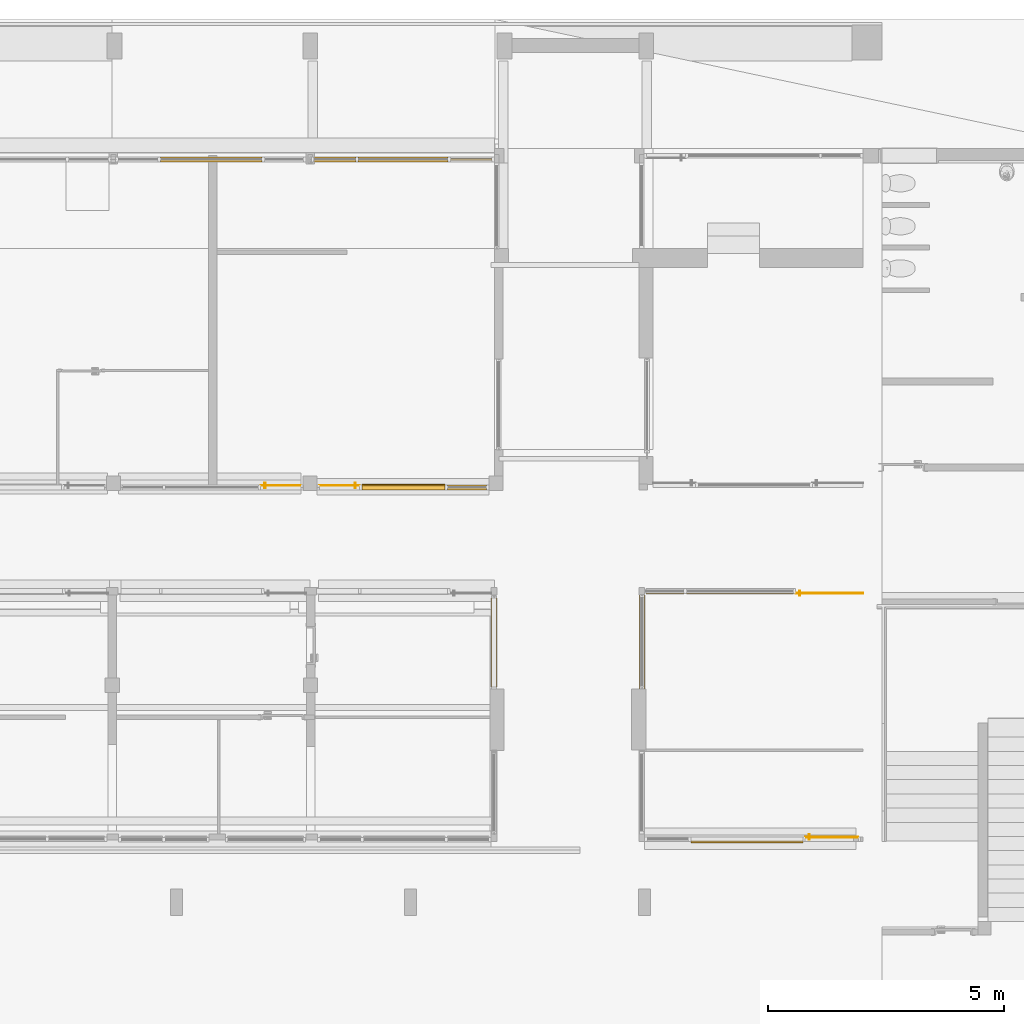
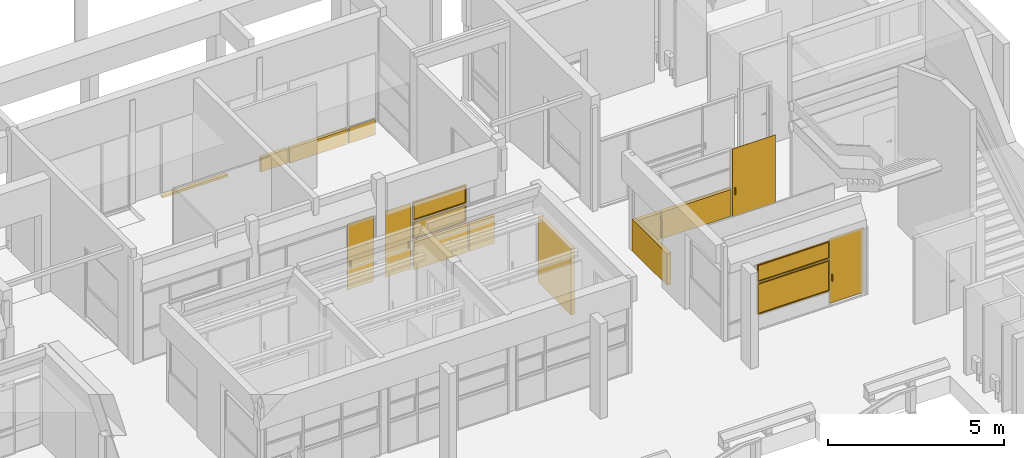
# One storey, part 108 of 117: 10 curtain walls, 4 doors, 4 windows, 8 elements without a shape of their own.
"""IFC4 building model written with IfcOpenShell, lengths in metres."""

from ifc_helpers import new_model, entity, si_unit, converted_unit, derived_unit, direction, frame, origin, place, context, subcontext, project, spatial, indexed_curve, outline, extrude, source, transform, mapped, material, constituent, constituent_set, type_object, type_shapes, element, aggregate, save


model = new_model("IFC4")

# Units and contexts
model_context = context("Model", 3, precision=1e-05, world=origin(), true_north=direction((6.123031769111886e-17, 1.0)))
body_context = subcontext(model_context, "Body", "Model", "MODEL_VIEW")
ifc_project = project(units=[si_unit("LENGTHUNIT", "METRE"), si_unit("AREAUNIT", "SQUARE_METRE"), si_unit("VOLUMEUNIT", "CUBIC_METRE"), converted_unit("PLANEANGLEUNIT", "DEGREE", entity("IfcRatioMeasure", 0.017453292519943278), si_unit("PLANEANGLEUNIT", "RADIAN"), dimensions=[0, 0, 0, 0, 0, 0, 0]), si_unit("MASSUNIT", "GRAM", prefix="KILO"), derived_unit("MASSDENSITYUNIT", [(si_unit("MASSUNIT", "GRAM", prefix="KILO"), 1), (si_unit("LENGTHUNIT", "METRE"), -3)]), derived_unit("MOMENTOFINERTIAUNIT", [(si_unit("LENGTHUNIT", "METRE"), 4)]), si_unit("TIMEUNIT", "SECOND"), si_unit("FREQUENCYUNIT", "HERTZ"), si_unit("THERMODYNAMICTEMPERATUREUNIT", "DEGREE_CELSIUS"), derived_unit("THERMALTRANSMITTANCEUNIT", [(si_unit("MASSUNIT", "GRAM", prefix="KILO"), 1), (si_unit("THERMODYNAMICTEMPERATUREUNIT", "KELVIN"), -1), (si_unit("TIMEUNIT", "SECOND"), -3)]), derived_unit("VOLUMETRICFLOWRATEUNIT", [(si_unit("LENGTHUNIT", "METRE"), 3), (si_unit("TIMEUNIT", "SECOND"), -1)]), derived_unit("MASSFLOWRATEUNIT", [(si_unit("MASSUNIT", "GRAM", prefix="KILO"), 1), (si_unit("TIMEUNIT", "SECOND"), -1)]), derived_unit("ROTATIONALFREQUENCYUNIT", [(si_unit("TIMEUNIT", "SECOND"), -1)]), si_unit("ELECTRICCURRENTUNIT", "AMPERE"), si_unit("ELECTRICVOLTAGEUNIT", "VOLT"), si_unit("POWERUNIT", "WATT"), si_unit("FORCEUNIT", "NEWTON", prefix="KILO"), si_unit("ILLUMINANCEUNIT", "LUX"), si_unit("LUMINOUSFLUXUNIT", "LUMEN"), si_unit("LUMINOUSINTENSITYUNIT", "CANDELA"), derived_unit("USERDEFINED", [(si_unit("MASSUNIT", "GRAM", prefix="KILO"), -1), (si_unit("LENGTHUNIT", "METRE"), -2), (si_unit("TIMEUNIT", "SECOND"), 3), (si_unit("LUMINOUSFLUXUNIT", "LUMEN"), 1)]), derived_unit("SOUNDPOWERUNIT", [(si_unit("MASSUNIT", "GRAM", prefix="KILO"), 1), (si_unit("LENGTHUNIT", "METRE"), 2), (si_unit("TIMEUNIT", "SECOND"), -3)]), derived_unit("SOUNDPRESSUREUNIT", [(si_unit("MASSUNIT", "GRAM", prefix="KILO"), 1), (si_unit("LENGTHUNIT", "METRE"), -1), (si_unit("TIMEUNIT", "SECOND"), -2)]), derived_unit("LINEARVELOCITYUNIT", [(si_unit("LENGTHUNIT", "METRE"), 1), (si_unit("TIMEUNIT", "SECOND"), -1)]), si_unit("PRESSUREUNIT", "PASCAL"), derived_unit("USERDEFINED", [(si_unit("LENGTHUNIT", "METRE"), -2), (si_unit("MASSUNIT", "GRAM", prefix="KILO"), 1), (si_unit("TIMEUNIT", "SECOND"), -2)]), derived_unit("LINEARFORCEUNIT", [(si_unit("MASSUNIT", "GRAM", prefix="KILO"), 1), (si_unit("LENGTHUNIT", "METRE"), 1), (si_unit("TIMEUNIT", "SECOND"), -2), (si_unit("LENGTHUNIT", "METRE"), -1)]), derived_unit("PLANARFORCEUNIT", [(si_unit("MASSUNIT", "GRAM", prefix="KILO"), 1), (si_unit("LENGTHUNIT", "METRE"), 1), (si_unit("TIMEUNIT", "SECOND"), -2), (si_unit("LENGTHUNIT", "METRE"), -2)])], contexts=[model_context])

# Site, building, storey
site_placement = place(None, origin())
site = spatial("IfcSite", under=ifc_project, at=site_placement, Name="Superficie", CompositionType="ELEMENT")
building_placement = place(site_placement, origin())
building = spatial("IfcBuilding", under=site, at=building_placement, CompositionType="ELEMENT")
storey_placement = place(building_placement, origin())
storey = spatial("IfcBuildingStorey", under=building, at=storey_placement, Name="Nivel 0", CompositionType="ELEMENT", Elevation=0.0)

# Curtain walls
curtain_wall_type_1 = type_object("IfcCurtainWallType", Name="Muro cortina:Muro cortina - simple", PredefinedType="NOTDEFINED")
curtain_wall_1_placement = place(storey_placement, origin())
curtain_wall_1 = element("IfcCurtainWall", 1, at=curtain_wall_1_placement, inside=storey, type_object=curtain_wall_type_1, Name="Muro cortina:Muro cortina - simple", ObjectType="Muro cortina:Muro cortina - simple", PredefinedType="NOTDEFINED")
ifc_material_1 = material(Name="<Unnamed>")
curtain_wall_type_2 = type_object("IfcCurtainWallType", Name="Muro básico:Por defecto - 12 cm 2", PredefinedType="NOTDEFINED")
curtain_wall_2_placement = place(storey_placement, frame((12.781799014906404, 3.3772960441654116, 0.04500000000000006), z_axis=(0.0, 0.0, 1.0), x_axis=(0.0, -1.0, 0.0)))
curtain_wall_2 = element("IfcCurtainWall", 2, at=curtain_wall_2_placement, type_object=curtain_wall_type_2, material=ifc_material_1, Name="Muro básico:Por defecto - 12 cm 2", ObjectType="Muro básico:Por defecto - 12 cm 2", PredefinedType="NOTDEFINED", context=body_context, shape_type="SweptSolid", body=[
    extrude(outline(indexed_curve([(1.8764667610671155, 0.05999999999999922), (-6.497094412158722e-17, 0.05999999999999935), (6.497094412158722e-17, -0.05999999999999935), (1.8764667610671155, -0.05999999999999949), (1.8764667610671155, 0.05999999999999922)], self_intersect=False)), origin(), (0.0, 0.0, 1.0), 2.3049999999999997),
])
aggregate(curtain_wall_1, [curtain_wall_2])

curtain_wall_3_placement = place(storey_placement, origin())
curtain_wall_3 = element("IfcCurtainWall", 3, at=curtain_wall_3_placement, inside=storey, type_object=curtain_wall_type_1, Name="Muro cortina:Muro cortina - simple", ObjectType="Muro cortina:Muro cortina - simple", PredefinedType="NOTDEFINED")
curtain_wall_4_placement = place(storey_placement, frame((15.916799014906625, 3.4457137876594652, 0.0), z_axis=(0.0, 0.0, 1.0), x_axis=(0.0, -1.0, 0.0)))
curtain_wall_4 = element("IfcCurtainWall", 4, at=curtain_wall_4_placement, type_object=curtain_wall_type_2, material=ifc_material_1, Name="Muro básico:Por defecto - 12 cm 2", ObjectType="Muro básico:Por defecto - 12 cm 2", PredefinedType="NOTDEFINED", context=body_context, shape_type="SweptSolid", body=[
    extrude(outline(indexed_curve([(1.9898845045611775, 0.05999999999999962), (-7.341472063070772e-17, 0.05999999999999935), (7.341472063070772e-17, -0.05999999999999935), (1.9898845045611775, -0.05999999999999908), (1.9898845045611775, 0.05999999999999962)], self_intersect=False)), origin(), (0.0, 0.0, 1.0), 1.1),
])
aggregate(curtain_wall_3, [curtain_wall_4])

# Curtain walls, door
curtain_wall_5_placement = place(storey_placement, origin())
curtain_wall_5 = element("IfcCurtainWall", 5, at=curtain_wall_5_placement, inside=storey, type_object=curtain_wall_type_1, Name="Muro cortina:Muro cortina - simple", ObjectType="Muro cortina:Muro cortina - simple", PredefinedType="NOTDEFINED")
curtain_wall_6_placement = place(storey_placement, frame((19.11100195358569, 3.525713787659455, 0.05), z_axis=(0.0, 0.0, 1.0), x_axis=(-1.0, 0.0, 0.0)))
curtain_wall_6 = element("IfcCurtainWall", 6, at=curtain_wall_6_placement, type_object=curtain_wall_type_2, material=ifc_material_1, Name="Muro básico:Por defecto - 12 cm 2", ObjectType="Muro básico:Por defecto - 12 cm 2", PredefinedType="NOTDEFINED", context=body_context, shape_type="SweptSolid", body=[
    extrude(outline(indexed_curve([(2.259999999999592, 0.06000000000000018), (-1.9420986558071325e-16, 0.059999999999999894), (1.9420986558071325e-16, -0.059999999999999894), (2.2599999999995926, -0.059999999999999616), (2.259999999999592, 0.06000000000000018)], self_intersect=False)), origin(), (0.0, 0.0, 1.0), 0.9249999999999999),
])
curtain_wall_7_placement = place(storey_placement, frame((16.801001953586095, 3.525713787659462, 0.05), z_axis=(0.0, 0.0, 1.0), x_axis=(-1.0, 0.0, 0.0)))
curtain_wall_7 = element("IfcCurtainWall", 7, at=curtain_wall_7_placement, type_object=curtain_wall_type_2, material=ifc_material_1, Name="Muro básico:Por defecto - 12 cm 2", ObjectType="Muro básico:Por defecto - 12 cm 2", PredefinedType="NOTDEFINED", context=body_context, shape_type="SweptSolid", body=[
    extrude(outline(indexed_curve([(0.8092029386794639, 0.05999999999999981), (-1.9420986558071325e-16, 0.059999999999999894), (1.9420986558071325e-16, -0.059999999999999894), (0.8092029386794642, -0.059999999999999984), (0.8092029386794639, 0.05999999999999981)], self_intersect=False)), origin(), (0.0, 0.0, 1.0), 0.9249999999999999),
])
ifc_material_2 = material(Name="Metal - Aluminio", Category="Metal")
ifc_constituent_1 = constituent(ifc_material_2, Name="Metal - Aluminio", Category="Metal")
ifc_material_3 = material(Name="Acero", Category="Metal")
ifc_constituent_2 = constituent(ifc_material_3, Name="Acero", Category="Metal")
ifc_constituent_set_1 = constituent_set(constituents=[ifc_constituent_1, ifc_constituent_2], Name="MaterialConstituentSet")
ifc_constituent_3 = constituent(ifc_material_2, Name="Marco/montante", Category="Metal")
ifc_constituent_4 = constituent(ifc_material_3, Name="Panel", Category="Metal")
ifc_constituent_set_2 = constituent_set(constituents=[ifc_constituent_3, ifc_constituent_4], Name="MaterialConstituentSet")
door_type_1 = type_object("IfcDoorType", Name="Puerta de cristal abatible en muro cortina:Puerta de chapa abatible en muro cortina 2", OperationType="NOTDEFINED", PredefinedType="DOOR", material=ifc_constituent_set_2)
shared_shape_1 = source(origin(), body_context, "Body", "SweptSolid", [
    extrude(outline(indexed_curve([(-0.012699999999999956, -0.0254), (0.012700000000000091, -0.0254), (0.012700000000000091, 0.0254), (-0.012699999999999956, 0.0254), (-0.012699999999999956, -0.0254)], self_intersect=False)), frame((0.6239985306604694, 0.012900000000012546, 0.7619999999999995)), (0.0, 0.0, 1.0), 0.22860000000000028),
    extrude(outline(indexed_curve([(-0.01269999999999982, -0.025399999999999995), (0.01269999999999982, -0.025399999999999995), (0.01269999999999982, 0.025400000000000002), (-0.01269999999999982, 0.025400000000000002), (-0.01269999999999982, -0.025399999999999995)], self_intersect=False)), frame((0.6239985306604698, 0.07640000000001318, 0.762), z_axis=(0.0, 0.0, 1.0), x_axis=(-1.0, 0.0, 0.0)), (0.0, 0.0, 1.0), 0.22860000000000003),
    extrude(outline(indexed_curve([(-0.006350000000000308, -0.7128985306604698), (0.006350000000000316, -0.7128985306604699), (0.006350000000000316, 0.7128985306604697), (-0.006350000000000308, 0.7128985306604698), (-0.006350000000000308, -0.7128985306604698)], self_intersect=False)), frame((0.0, 0.04465000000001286, 0.0), z_axis=(0.0, 0.0, 1.0), x_axis=(0.0, -1.0, 0.0)), (0.0, 0.0, 1.0), 2.35),
])
type_shapes(door_type_1, [shared_shape_1])
door_1_placement = place(curtain_wall_5_placement, frame((19.87390048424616, 3.5257137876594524, 0.0), z_axis=(0.0, 0.0, 1.0), x_axis=(-1.0, 0.0, 0.0)))
door_1 = element("IfcDoor", 8, at=door_1_placement, type_object=door_type_1, material=ifc_constituent_set_1, Name="Puerta de cristal abatible en muro cortina:Puerta de chapa abatible en muro cortina 2", ObjectType="Puerta de cristal abatible en muro cortina:Puerta de chapa abatible en muro cortina 2", OperationType="NOTDEFINED", OverallHeight=2.35, OverallWidth=1.4257970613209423, PredefinedType="DOOR", context=body_context, shape_type="MappedRepresentation", body=[
    mapped(shared_shape_1, transform((0.0, 0.0, 0.0), scale=1.0)),
])
aggregate(curtain_wall_5, [door_1, curtain_wall_6, curtain_wall_7])

# Curtain walls
curtain_wall_8_placement = place(storey_placement, origin())
curtain_wall_8 = element("IfcCurtainWall", 9, at=curtain_wall_8_placement, inside=storey, type_object=curtain_wall_type_1, Name="Muro cortina:Muro cortina - simple", ObjectType="Muro cortina:Muro cortina - simple", PredefinedType="NOTDEFINED")
curtain_wall_type_3 = type_object("IfcCurtainWallType", Name="Muro básico:Por defecto - 10 cm", PredefinedType="NOTDEFINED")
curtain_wall_9_placement = place(storey_placement, frame((9.98655202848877, 5.716739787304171, 0.04500000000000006)))
curtain_wall_9 = element("IfcCurtainWall", 10, at=curtain_wall_9_placement, type_object=curtain_wall_type_3, material=ifc_material_1, Name="Muro básico:Por defecto - 10 cm", ObjectType="Muro básico:Por defecto - 10 cm", PredefinedType="NOTDEFINED", context=body_context, shape_type="SweptSolid", body=[
    extrude(outline(indexed_curve([(1.7602469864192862, 0.05), (-1.6919798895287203e-16, 0.04999999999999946), (1.6919798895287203e-16, -0.04999999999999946), (1.7602469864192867, -0.04999999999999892), (1.7602469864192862, 0.05)], self_intersect=False)), origin(), (0.0, 0.0, 1.0), 0.9499999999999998),
])
curtain_wall_10_placement = place(storey_placement, frame((11.796799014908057, 5.7167397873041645, 0.04500000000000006)))
curtain_wall_10 = element("IfcCurtainWall", 11, at=curtain_wall_10_placement, type_object=curtain_wall_type_3, material=ifc_material_1, Name="Muro básico:Por defecto - 10 cm", ObjectType="Muro básico:Por defecto - 10 cm", PredefinedType="NOTDEFINED", context=body_context, shape_type="SweptSolid", body=[
    extrude(outline(indexed_curve([(0.8249999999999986, 0.050000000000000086), (-1.6919798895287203e-16, 0.04999999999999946), (1.6919798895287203e-16, -0.04999999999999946), (0.8249999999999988, -0.04999999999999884), (0.8249999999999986, 0.050000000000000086)], self_intersect=False)), origin(), (0.0, 0.0, 1.0), 0.9499999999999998),
])

curtain_wall_11_placement = place(storey_placement, origin())
curtain_wall_11 = element("IfcCurtainWall", 12, at=curtain_wall_11_placement, inside=storey, type_object=curtain_wall_type_1, Name="Muro cortina:Muro cortina - simple", ObjectType="Muro cortina:Muro cortina - simple", PredefinedType="NOTDEFINED")
curtain_wall_12_placement = place(storey_placement, frame((11.81056831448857, 12.654548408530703, -0.43900732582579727), z_axis=(0.0, 0.0, 1.0), x_axis=(-1.0, 0.0, 0.0)))
curtain_wall_12 = element("IfcCurtainWall", 13, at=curtain_wall_12_placement, type_object=curtain_wall_type_3, material=ifc_material_1, Name="Muro básico:Por defecto - 10 cm", ObjectType="Muro básico:Por defecto - 10 cm", PredefinedType="NOTDEFINED", context=body_context, shape_type="SweptSolid", body=[
    extrude(outline(indexed_curve([(1.9040162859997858, 0.04999999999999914), (-1.6209698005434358e-16, 0.04999999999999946), (1.6209698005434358e-16, -0.04999999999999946), (1.9040162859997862, -0.04999999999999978), (1.9040162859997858, 0.04999999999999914)], self_intersect=False)), origin(), (0.0, 0.0, 1.0), 0.5183011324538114),
])
curtain_wall_13_placement = place(storey_placement, frame((9.856552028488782, 12.654548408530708, -0.4121744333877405), z_axis=(0.0, 0.0, 1.0), x_axis=(-1.0, 0.0, 0.0)))
curtain_wall_13 = element("IfcCurtainWall", 14, at=curtain_wall_13_placement, type_object=curtain_wall_type_3, material=ifc_material_1, Name="Muro básico:Por defecto - 10 cm", ObjectType="Muro básico:Por defecto - 10 cm", PredefinedType="NOTDEFINED", context=body_context, shape_type="SweptSolid", body=[
    extrude(outline(indexed_curve([(0.8900000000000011, 0.04999999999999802), (-1.6209698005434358e-16, 0.04999999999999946), (1.6209698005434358e-16, -0.04999999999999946), (0.8900000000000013, -0.05000000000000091), (0.8900000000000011, 0.04999999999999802)], self_intersect=False)), origin(), (0.0, 0.0, 1.0), 0.4914682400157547),
])

curtain_wall_14_placement = place(storey_placement, origin())
curtain_wall_14 = element("IfcCurtainWall", 15, at=curtain_wall_14_placement, inside=storey, type_object=curtain_wall_type_1, Name="Muro cortina:Muro cortina - simple", ObjectType="Muro cortina:Muro cortina - simple", PredefinedType="NOTDEFINED")
curtain_wall_15_placement = place(storey_placement, frame((7.876552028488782, 12.654548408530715, -0.1874502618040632), z_axis=(0.0, 0.0, 1.0), x_axis=(-1.0, 0.0, 0.0)))
curtain_wall_15 = element("IfcCurtainWall", 16, at=curtain_wall_15_placement, type_object=curtain_wall_type_3, material=ifc_material_1, Name="Muro básico:Por defecto - 10 cm", ObjectType="Muro básico:Por defecto - 10 cm", PredefinedType="NOTDEFINED", context=body_context, shape_type="SweptSolid", body=[
    extrude(outline(indexed_curve([(2.1500000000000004, 0.04999999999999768), (-1.6002962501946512e-16, 0.04999999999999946), (1.6002962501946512e-16, -0.04999999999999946), (2.150000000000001, -0.050000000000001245), (2.1500000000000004, 0.04999999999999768)], self_intersect=False)), origin(), (0.0, 0.0, 1.0), 0.07597316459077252),
])
aggregate(curtain_wall_14, [curtain_wall_15])

# Door
ifc_constituent_5 = constituent(ifc_material_2, Name="Metal - Aluminio", Category="Metal")
ifc_material_4 = material(Name="Vidrio", Category="Vidrio")
ifc_constituent_6 = constituent(ifc_material_4, Name="Vidrio", Category="Vidrio")
ifc_constituent_set_3 = constituent_set(constituents=[ifc_constituent_5, ifc_constituent_6], Name="MaterialConstituentSet")
ifc_constituent_7 = constituent(ifc_material_2, Name="Marco/montante", Category="Metal")
ifc_constituent_8 = constituent(ifc_material_4, Name="Panel", Category="Vidrio")
ifc_constituent_set_4 = constituent_set(constituents=[ifc_constituent_7, ifc_constituent_8], Name="MaterialConstituentSet")
door_type_2 = type_object("IfcDoorType", Name="Puerta de cristal abatible en muro cortina:Puerta de cristal abatible en muro cortina", OperationType="NOTDEFINED", PredefinedType="DOOR", material=ifc_constituent_set_4)
shared_shape_2 = source(origin(), body_context, "Body", "SweptSolid", [
    extrude(outline(indexed_curve([(-0.012700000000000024, -0.0254), (0.012700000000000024, -0.0254), (0.012700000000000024, 0.0254), (-0.012700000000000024, 0.0254), (-0.012700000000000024, -0.0254)], self_intersect=False)), frame((0.33609999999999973, 0.012900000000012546, 0.7619999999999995)), (0.0, 0.0, 1.0), 0.22860000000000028),
    extrude(outline(indexed_curve([(-0.012699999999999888, -0.025399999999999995), (0.01269999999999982, -0.025399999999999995), (0.01269999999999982, 0.025400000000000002), (-0.012699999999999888, 0.025400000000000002), (-0.012699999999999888, -0.025399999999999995)], self_intersect=False)), frame((0.33610000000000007, 0.07640000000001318, 0.762), z_axis=(0.0, 0.0, 1.0), x_axis=(-1.0, 0.0, 0.0)), (0.0, 0.0, 1.0), 0.22860000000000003),
    extrude(outline(indexed_curve([(-0.006350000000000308, -0.42500000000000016), (0.006350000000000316, -0.4250000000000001), (0.006350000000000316, 0.4250000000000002), (-0.006350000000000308, 0.42500000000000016), (-0.006350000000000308, -0.42500000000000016)], self_intersect=False)), frame((0.0, 0.04465000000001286, 0.0), z_axis=(0.0, 0.0, 1.0), x_axis=(0.0, -1.0, 0.0)), (0.0, 0.0, 1.0), 2.2849999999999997),
])
type_shapes(door_type_2, [shared_shape_2])
door_2_placement = place(curtain_wall_8_placement, frame((9.511552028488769, 5.716739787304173, 0.04499999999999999)))
door_2 = element("IfcDoor", 17, at=door_2_placement, type_object=door_type_2, material=ifc_constituent_set_3, Name="Puerta de cristal abatible en muro cortina:Puerta de cristal abatible en muro cortina", ObjectType="Puerta de cristal abatible en muro cortina:Puerta de cristal abatible en muro cortina", OperationType="NOTDEFINED", OverallHeight=2.2849999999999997, OverallWidth=0.8500000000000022, PredefinedType="DOOR", context=body_context, shape_type="MappedRepresentation", body=[
    mapped(shared_shape_2, transform((0.0, 0.0, 0.0), scale=1.0)),
])

# Window
ifc_constituent_9 = constituent(ifc_material_4, Name="Vidrio", Category="Vidrio")
ifc_constituent_10 = constituent(ifc_material_2, Name="Metal - Aluminio", Category="Metal")
ifc_constituent_set_5 = constituent_set(constituents=[ifc_constituent_9, ifc_constituent_10], Name="MaterialConstituentSet")
ifc_constituent_11 = constituent(ifc_material_4, Name="Cristal", Category="Vidrio")
ifc_constituent_12 = constituent(ifc_material_2, Name="Marco/montante", Category="Metal")
ifc_constituent_set_6 = constituent_set(constituents=[ifc_constituent_11, ifc_constituent_12], Name="MaterialConstituentSet")
window_type_1 = type_object("IfcWindowType", Name="Ventana de muro cortina con proyectable simple:Ventana de muro cortina con proyectable simple", PartitioningType="NOTDEFINED", PredefinedType="WINDOW", material=ifc_constituent_set_6)
shared_shape_3 = source(origin(), body_context, "Body", "SweptSolid", [
    extrude(outline(indexed_curve([(-0.006350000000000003, -0.8501234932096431), (0.0063499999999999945, -0.8501234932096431), (0.0063499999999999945, 0.8501234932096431), (-0.006350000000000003, 0.8501234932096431), (-0.006350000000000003, -0.8501234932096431)], self_intersect=False)), frame((0.0, 0.05039999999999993, 0.030000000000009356), z_axis=(0.0, 0.0, 1.0), x_axis=(0.0, 1.0, 0.0)), (0.0, 0.0, 1.0), 0.5449999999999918),
    extrude(outline(indexed_curve([(-0.8801234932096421, -0.3025), (0.8801234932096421, -0.3025), (0.8801234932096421, 0.3025), (-0.8801234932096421, 0.3025), (-0.8801234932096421, -0.3025)], self_intersect=False), holes=[indexed_curve([(-0.8501234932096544, -0.27250000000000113), (-0.8501234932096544, 0.2724999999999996), (0.8501234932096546, 0.2724999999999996), (0.8501234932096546, -0.27250000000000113), (-0.8501234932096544, -0.27250000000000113)], self_intersect=False)]), frame((0.0, 0.024999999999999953, 0.3025), z_axis=(0.0, 1.0, 0.0), x_axis=(1.0, 0.0, 0.0)), (0.0, 0.0, 1.0), 0.05000000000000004),
])
type_shapes(window_type_1, [shared_shape_3])
window_1_placement = place(curtain_wall_8_placement, frame((10.866675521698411, 5.716739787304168, 1.0449999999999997)))
window_1 = element("IfcWindow", 18, at=window_1_placement, type_object=window_type_1, material=ifc_constituent_set_5, Name="Ventana de muro cortina con proyectable simple:Ventana de muro cortina con proyectable simple", ObjectType="Ventana de muro cortina con proyectable simple:Ventana de muro cortina con proyectable simple", OverallHeight=0.605, OverallWidth=1.7602469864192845, PartitioningType="NOTDEFINED", PredefinedType="WINDOW", context=body_context, shape_type="MappedRepresentation", body=[
    mapped(shared_shape_3, transform((0.0, 0.0, 0.0), scale=1.0)),
])

ifc_constituent_13 = constituent(ifc_material_4, Name="Vidrio", Category="Vidrio")
ifc_constituent_14 = constituent(ifc_material_2, Name="Metal - Aluminio", Category="Metal")
ifc_constituent_set_7 = constituent_set(constituents=[ifc_constituent_13, ifc_constituent_14], Name="MaterialConstituentSet")
ifc_constituent_15 = constituent(ifc_material_4, Name="Cristal", Category="Vidrio")
ifc_constituent_16 = constituent(ifc_material_2, Name="Marco/montante", Category="Metal")
ifc_constituent_set_8 = constituent_set(constituents=[ifc_constituent_15, ifc_constituent_16], Name="MaterialConstituentSet")
window_type_2 = type_object("IfcWindowType", Name="Ventana de muro cortina con proyectable simple:Ventana de muro cortina con proyectable simple", PartitioningType="NOTDEFINED", PredefinedType="WINDOW", material=ifc_constituent_set_8)
shared_shape_4 = source(origin(), body_context, "Body", "SweptSolid", [
    extrude(outline(indexed_curve([(-0.006350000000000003, -0.8501234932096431), (0.0063499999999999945, -0.8501234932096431), (0.0063499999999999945, 0.8501234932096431), (-0.006350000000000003, 0.8501234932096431), (-0.006350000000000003, -0.8501234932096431)], self_intersect=False)), frame((0.0, 0.05039999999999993, 0.030000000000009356), z_axis=(0.0, 0.0, 1.0), x_axis=(0.0, 1.0, 0.0)), (0.0, 0.0, 1.0), 0.5699999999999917),
    extrude(outline(indexed_curve([(-0.8801234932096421, -0.315), (0.8801234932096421, -0.315), (0.8801234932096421, 0.315), (-0.8801234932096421, 0.315), (-0.8801234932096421, -0.315)], self_intersect=False), holes=[indexed_curve([(-0.8501234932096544, -0.28500000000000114), (-0.8501234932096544, 0.2849999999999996), (0.8501234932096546, 0.2849999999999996), (0.8501234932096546, -0.28500000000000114), (-0.8501234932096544, -0.28500000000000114)], self_intersect=False)]), frame((0.0, 0.024999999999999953, 0.315), z_axis=(0.0, 1.0, 0.0), x_axis=(1.0, 0.0, 0.0)), (0.0, 0.0, 1.0), 0.05000000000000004),
])
type_shapes(window_type_2, [shared_shape_4])
window_2_placement = place(curtain_wall_8_placement, frame((10.866675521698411, 5.716739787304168, 1.7)))
window_2 = element("IfcWindow", 19, at=window_2_placement, type_object=window_type_2, material=ifc_constituent_set_7, Name="Ventana de muro cortina con proyectable simple:Ventana de muro cortina con proyectable simple", ObjectType="Ventana de muro cortina con proyectable simple:Ventana de muro cortina con proyectable simple", OverallHeight=0.63, OverallWidth=1.7602469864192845, PartitioningType="NOTDEFINED", PredefinedType="WINDOW", context=body_context, shape_type="MappedRepresentation", body=[
    mapped(shared_shape_4, transform((0.0, 0.0, 0.0), scale=1.0)),
])

aggregate(curtain_wall_8, [door_2, curtain_wall_9, curtain_wall_10, window_1, window_2])

# Curtain wall, door
curtain_wall_16_placement = place(storey_placement, origin())
curtain_wall_16 = element("IfcCurtainWall", 20, at=curtain_wall_16_placement, inside=storey, type_object=curtain_wall_type_1, Name="Muro cortina:Muro cortina - simple", ObjectType="Muro cortina:Muro cortina - simple", PredefinedType="NOTDEFINED")
ifc_constituent_17 = constituent(ifc_material_2, Name="Metal - Aluminio", Category="Metal")
ifc_constituent_18 = constituent(ifc_material_4, Name="Vidrio", Category="Vidrio")
ifc_constituent_set_9 = constituent_set(constituents=[ifc_constituent_17, ifc_constituent_18], Name="MaterialConstituentSet")
ifc_constituent_19 = constituent(ifc_material_2, Name="Marco/montante", Category="Metal")
ifc_constituent_20 = constituent(ifc_material_4, Name="Panel", Category="Vidrio")
ifc_constituent_set_10 = constituent_set(constituents=[ifc_constituent_19, ifc_constituent_20], Name="MaterialConstituentSet")
door_type_3 = type_object("IfcDoorType", Name="Puerta de cristal abatible en muro cortina:Puerta de cristal abatible en muro cortina", OperationType="NOTDEFINED", PredefinedType="DOOR", material=ifc_constituent_set_10)
shared_shape_5 = source(origin(), body_context, "Body", "SweptSolid", [
    extrude(outline(indexed_curve([(-0.0254, -0.012700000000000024), (0.0254, -0.012700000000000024), (0.0254, 0.012700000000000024), (-0.0254, 0.012700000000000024), (-0.0254, -0.012700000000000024)], self_intersect=False)), frame((-0.33609999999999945, 0.012900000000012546, 0.7619999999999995), z_axis=(0.0, 0.0, 1.0), x_axis=(0.0, 1.0, 0.0)), (0.0, 0.0, 1.0), 0.22860000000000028),
    extrude(outline(indexed_curve([(-0.025399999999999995, -0.012699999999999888), (0.025400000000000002, -0.012699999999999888), (0.025400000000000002, 0.01269999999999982), (-0.025399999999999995, 0.01269999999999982), (-0.025399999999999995, -0.012699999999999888)], self_intersect=False)), frame((-0.3360999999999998, 0.07640000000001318, 0.762), z_axis=(0.0, 0.0, 1.0), x_axis=(0.0, -1.0, 0.0)), (0.0, 0.0, 1.0), 0.22860000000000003),
    extrude(outline(indexed_curve([(-0.4249999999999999, -0.006350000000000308), (0.4249999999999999, -0.006350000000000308), (0.4249999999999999, 0.006350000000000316), (-0.4249999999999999, 0.006350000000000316), (-0.4249999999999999, -0.006350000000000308)], self_intersect=False)), frame((0.0, 0.04465000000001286, 0.0), z_axis=(0.0, 0.0, 1.0), x_axis=(-1.0, 0.0, 0.0)), (0.0, 0.0, 1.0), 2.2849999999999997),
])
type_shapes(door_type_3, [shared_shape_5])
door_3_placement = place(curtain_wall_16_placement, frame((8.27155202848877, 5.716739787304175, 0.04499999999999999)))
door_3 = element("IfcDoor", 21, at=door_3_placement, type_object=door_type_3, material=ifc_constituent_set_9, Name="Puerta de cristal abatible en muro cortina:Puerta de cristal abatible en muro cortina", ObjectType="Puerta de cristal abatible en muro cortina:Puerta de cristal abatible en muro cortina", OperationType="NOTDEFINED", OverallHeight=2.2849999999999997, OverallWidth=0.8500000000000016, PredefinedType="DOOR", context=body_context, shape_type="MappedRepresentation", body=[
    mapped(shared_shape_5, transform((0.0, 0.0, 0.0), scale=1.0)),
])
aggregate(curtain_wall_16, [door_3])

# Curtain wall
curtain_wall_type_4 = type_object("IfcCurtainWallType", Name="Muro básico:Por defecto - 5 cm 2", PredefinedType="NOTDEFINED")
curtain_wall_17_placement = place(storey_placement, frame((12.740568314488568, 12.6545484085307, -0.45177824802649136), z_axis=(0.0, 0.0, 1.0), x_axis=(-1.0, 0.0, 0.0)))
curtain_wall_17 = element("IfcCurtainWall", 22, at=curtain_wall_17_placement, type_object=curtain_wall_type_4, material=ifc_material_1, Name="Muro básico:Por defecto - 5 cm 2", ObjectType="Muro básico:Por defecto - 5 cm 2", PredefinedType="NOTDEFINED", context=body_context, shape_type="SweptSolid", body=[
    extrude(outline(indexed_curve([(0.8799999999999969, 0.0250000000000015), (-8.104849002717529e-17, 0.025000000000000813), (8.104849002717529e-17, -0.025000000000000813), (0.8799999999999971, -0.02500000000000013), (0.8799999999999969, 0.0250000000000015)], self_intersect=False)), origin(), (0.0, 0.0, 1.0), 0.5310720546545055),
])

aggregate(curtain_wall_11, [curtain_wall_17, curtain_wall_12, curtain_wall_13])

# Curtain wall, door, windows
curtain_wall_18_placement = place(storey_placement, origin())
curtain_wall_18 = element("IfcCurtainWall", 23, at=curtain_wall_18_placement, inside=storey, type_object=curtain_wall_type_1, Name="Muro cortina:Muro cortina - simple", ObjectType="Muro cortina:Muro cortina - simple", PredefinedType="NOTDEFINED")
ifc_constituent_21 = constituent(ifc_material_2, Name="Metal - Aluminio", Category="Metal")
ifc_constituent_22 = constituent(ifc_material_4, Name="Vidrio", Category="Vidrio")
ifc_constituent_set_11 = constituent_set(constituents=[ifc_constituent_21, ifc_constituent_22], Name="MaterialConstituentSet")
ifc_constituent_23 = constituent(ifc_material_2, Name="Marco/montante", Category="Metal")
ifc_constituent_24 = constituent(ifc_material_4, Name="Panel", Category="Vidrio")
ifc_constituent_set_12 = constituent_set(constituents=[ifc_constituent_23, ifc_constituent_24], Name="MaterialConstituentSet")
door_type_4 = type_object("IfcDoorType", Name="Puerta de cristal abatible en muro cortina:Puerta de cristal abatible en muro cortina", OperationType="NOTDEFINED", PredefinedType="DOOR", material=ifc_constituent_set_12)
shared_shape_6 = source(origin(), body_context, "Body", "SweptSolid", [
    extrude(outline(indexed_curve([(-0.0254, -0.012700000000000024), (0.0254, -0.012700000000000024), (0.0254, 0.012700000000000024), (-0.0254, 0.012700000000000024), (-0.0254, -0.012700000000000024)], self_intersect=False)), frame((-0.47359999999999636, 0.012900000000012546, 0.7619999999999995), z_axis=(0.0, 0.0, 1.0), x_axis=(0.0, 1.0, 0.0)), (0.0, 0.0, 1.0), 0.22860000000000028),
    extrude(outline(indexed_curve([(-0.025399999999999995, -0.012699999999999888), (0.025400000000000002, -0.012699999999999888), (0.025400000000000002, 0.01269999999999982), (-0.025399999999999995, 0.01269999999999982), (-0.025399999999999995, -0.012699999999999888)], self_intersect=False)), frame((-0.4735999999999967, 0.07640000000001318, 0.762), z_axis=(0.0, 0.0, 1.0), x_axis=(0.0, -1.0, 0.0)), (0.0, 0.0, 1.0), 0.22860000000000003),
    extrude(outline(indexed_curve([(-0.5624999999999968, -0.006350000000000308), (0.5624999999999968, -0.006350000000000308), (0.5624999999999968, 0.006350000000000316), (-0.5624999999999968, 0.006350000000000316), (-0.5624999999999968, -0.006350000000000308)], self_intersect=False)), frame((0.0, 0.04465000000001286, 0.0), z_axis=(0.0, 0.0, 1.0), x_axis=(-1.0, 0.0, 0.0)), (0.0, 0.0, 1.0), 2.25),
])
type_shapes(door_type_4, [shared_shape_6])
door_4_placement = place(curtain_wall_18_placement, frame((19.92429901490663, -1.7241707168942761, 0.05)))
door_4 = element("IfcDoor", 24, at=door_4_placement, type_object=door_type_4, material=ifc_constituent_set_11, Name="Puerta de cristal abatible en muro cortina:Puerta de cristal abatible en muro cortina", ObjectType="Puerta de cristal abatible en muro cortina:Puerta de cristal abatible en muro cortina", OperationType="NOTDEFINED", OverallHeight=2.25, OverallWidth=1.1249999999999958, PredefinedType="DOOR", context=body_context, shape_type="MappedRepresentation", body=[
    mapped(shared_shape_6, transform((0.0, 0.0, 0.0), scale=1.0)),
])
ifc_constituent_25 = constituent(ifc_material_4, Name="Vidrio", Category="Vidrio")
ifc_constituent_26 = constituent(ifc_material_2, Name="Metal - Aluminio", Category="Metal")
ifc_constituent_set_13 = constituent_set(constituents=[ifc_constituent_25, ifc_constituent_26], Name="MaterialConstituentSet")
ifc_constituent_27 = constituent(ifc_material_4, Name="Cristal", Category="Vidrio")
ifc_constituent_28 = constituent(ifc_material_2, Name="Marco/montante", Category="Metal")
ifc_constituent_set_14 = constituent_set(constituents=[ifc_constituent_27, ifc_constituent_28], Name="MaterialConstituentSet")
window_type_3 = type_object("IfcWindowType", Name="Ventana de muro cortina con proyectable simple:Ventana de muro cortina con proyectable simple", PartitioningType="NOTDEFINED", PredefinedType="WINDOW", material=ifc_constituent_set_14)
shared_shape_7 = source(origin(), body_context, "Body", "SweptSolid", [
    extrude(outline(indexed_curve([(-0.006350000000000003, -1.1550000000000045), (0.0063499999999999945, -1.1550000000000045), (0.0063499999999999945, 1.1550000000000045), (-0.006350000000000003, 1.1550000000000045), (-0.006350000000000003, -1.1550000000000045)], self_intersect=False)), frame((0.0, 0.05039999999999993, 0.030000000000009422), z_axis=(0.0, 0.0, 1.0), x_axis=(0.0, 1.0, 0.0)), (0.0, 0.0, 1.0), 1.0149999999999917),
    extrude(outline(indexed_curve([(-1.1850000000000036, -0.5375000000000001), (1.1850000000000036, -0.5375000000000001), (1.1850000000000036, 0.5375000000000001), (-1.1850000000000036, 0.5375000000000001), (-1.1850000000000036, -0.5375000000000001)], self_intersect=False), holes=[indexed_curve([(-1.1550000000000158, -0.5075000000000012), (-1.1550000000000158, 0.5074999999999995), (1.155000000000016, 0.5074999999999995), (1.155000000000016, -0.5075000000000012), (-1.1550000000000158, -0.5075000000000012)], self_intersect=False)]), frame((0.0, 0.024999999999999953, 0.5375000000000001), z_axis=(0.0, 1.0, 0.0), x_axis=(1.0, 0.0, 0.0)), (0.0, 0.0, 1.0), 0.05000000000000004),
])
type_shapes(window_type_3, [shared_shape_7])
window_3_placement = place(curtain_wall_18_placement, frame((18.12679901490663, -1.7241707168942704, 0.5750000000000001), z_axis=(0.0, 0.0, 1.0), x_axis=(-1.0, 0.0, 0.0)))
window_3 = element("IfcWindow", 25, at=window_3_placement, type_object=window_type_3, material=ifc_constituent_set_13, Name="Ventana de muro cortina con proyectable simple:Ventana de muro cortina con proyectable simple", ObjectType="Ventana de muro cortina con proyectable simple:Ventana de muro cortina con proyectable simple", OverallHeight=1.0750000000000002, OverallWidth=2.370000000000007, PartitioningType="NOTDEFINED", PredefinedType="WINDOW", context=body_context, shape_type="MappedRepresentation", body=[
    mapped(shared_shape_7, transform((0.0, 0.0, 0.0), scale=1.0)),
])
ifc_constituent_29 = constituent(ifc_material_4, Name="Vidrio", Category="Vidrio")
ifc_constituent_30 = constituent(ifc_material_2, Name="Metal - Aluminio", Category="Metal")
ifc_constituent_set_15 = constituent_set(constituents=[ifc_constituent_29, ifc_constituent_30], Name="MaterialConstituentSet")
ifc_constituent_31 = constituent(ifc_material_4, Name="Cristal", Category="Vidrio")
ifc_constituent_32 = constituent(ifc_material_2, Name="Marco/montante", Category="Metal")
ifc_constituent_set_16 = constituent_set(constituents=[ifc_constituent_31, ifc_constituent_32], Name="MaterialConstituentSet")
window_type_4 = type_object("IfcWindowType", Name="Ventana de muro cortina con proyectable simple:Ventana de muro cortina con proyectable simple", PartitioningType="NOTDEFINED", PredefinedType="WINDOW", material=ifc_constituent_set_16)
shared_shape_8 = source(origin(), body_context, "Body", "SweptSolid", [
    extrude(outline(indexed_curve([(-0.006350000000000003, -1.1550000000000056), (0.0063499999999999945, -1.1550000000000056), (0.0063499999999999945, 1.1550000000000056), (-0.006350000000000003, 1.1550000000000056), (-0.006350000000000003, -1.1550000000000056)], self_intersect=False)), frame((0.0, 0.05039999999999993, 0.030000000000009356), z_axis=(0.0, 0.0, 1.0), x_axis=(0.0, 1.0, 0.0)), (0.0, 0.0, 1.0), 0.5399999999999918),
    extrude(outline(indexed_curve([(-1.1850000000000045, -0.30000000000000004), (1.1850000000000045, -0.30000000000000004), (1.1850000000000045, 0.30000000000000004), (-1.1850000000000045, 0.30000000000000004), (-1.1850000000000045, -0.30000000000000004)], self_intersect=False), holes=[indexed_curve([(-1.155000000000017, -0.2700000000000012), (-1.155000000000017, 0.26999999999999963), (1.1550000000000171, 0.26999999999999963), (1.1550000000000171, -0.2700000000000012), (-1.155000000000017, -0.2700000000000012)], self_intersect=False)]), frame((0.0, 0.024999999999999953, 0.30000000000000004), z_axis=(0.0, 1.0, 0.0), x_axis=(1.0, 0.0, 0.0)), (0.0, 0.0, 1.0), 0.05000000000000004),
])
type_shapes(window_type_4, [shared_shape_8])
window_4_placement = place(curtain_wall_18_placement, frame((18.12679901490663, -1.7241707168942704, 1.7000000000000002), z_axis=(0.0, 0.0, 1.0), x_axis=(-1.0, 0.0, 0.0)))
window_4 = element("IfcWindow", 26, at=window_4_placement, type_object=window_type_4, material=ifc_constituent_set_15, Name="Ventana de muro cortina con proyectable simple:Ventana de muro cortina con proyectable simple", ObjectType="Ventana de muro cortina con proyectable simple:Ventana de muro cortina con proyectable simple", OverallHeight=0.6000000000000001, OverallWidth=2.3700000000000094, PartitioningType="NOTDEFINED", PredefinedType="WINDOW", context=body_context, shape_type="MappedRepresentation", body=[
    mapped(shared_shape_8, transform((0.0, 0.0, 0.0), scale=1.0)),
])
aggregate(curtain_wall_18, [door_4, window_3, window_4])

save(model, "model.ifc")
